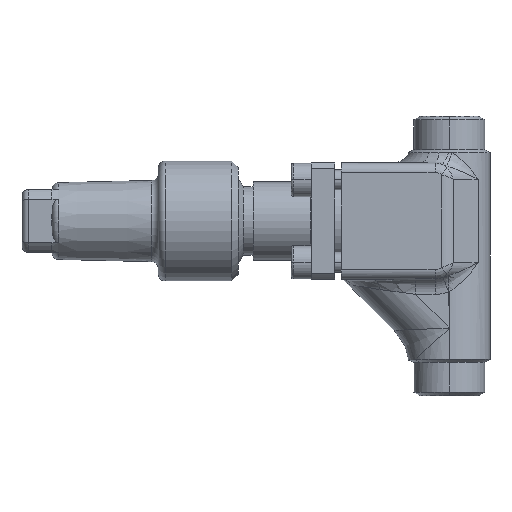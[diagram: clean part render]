
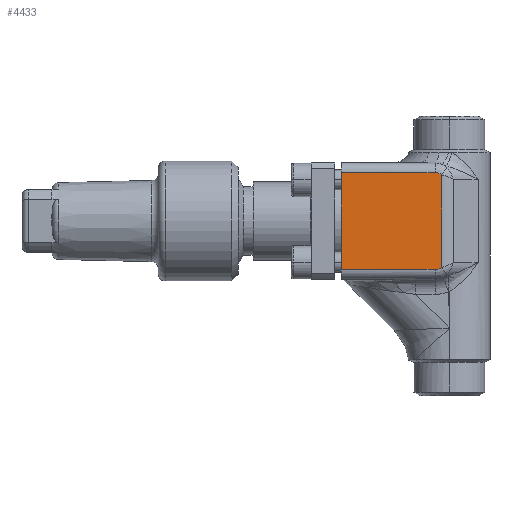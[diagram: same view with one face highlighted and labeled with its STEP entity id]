
A CAD part, left-side view. The second image highlights one B-rep face of the part: STEP entity #4433.
In plain terms, the highlighted planar face has unit normal (-1, 0, 0).
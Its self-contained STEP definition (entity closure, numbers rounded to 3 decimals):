
#16783 = ORIENTED_EDGE ( 'NONE', *, *, #18035, .T. ) ;
#821 = ORIENTED_EDGE ( 'NONE', *, *, #2505, .T. ) ;
#1056 = CARTESIAN_POINT ( 'NONE',  ( -17.5, 4.318, -32. ) ) ;
#17426 = CARTESIAN_POINT ( 'NONE',  ( -17.5, 2.318, -31.414 ) ) ;
#17578 = EDGE_CURVE ( 'NONE', #10593, #4859, #5756, .T. ) ;
#17665 = ORIENTED_EDGE ( 'NONE', *, *, #17578, .T. ) ;
#17817 = VERTEX_POINT ( 'NONE', #7082 ) ;
#1484 =( BOUNDED_CURVE ( )  B_SPLINE_CURVE ( 3, ( #1485, #1486, #1487, #1488 ),
 .UNSPECIFIED., .F., .F. ) 
 B_SPLINE_CURVE_WITH_KNOTS ( ( 4, 4 ),
 ( 0.785, 1.571 ),
 .UNSPECIFIED. ) 
 CURVE ( )  GEOMETRIC_REPRESENTATION_ITEM ( )  RATIONAL_B_SPLINE_CURVE ( ( 1., 0.949, 0.949, 1. ) ) 
 REPRESENTATION_ITEM ( '' )  );
#1485 = CARTESIAN_POINT ( 'NONE',  ( -17.5, 2.318, -3.586 ) ) ;
#1486 = CARTESIAN_POINT ( 'NONE',  ( -17.5, 2.855, -3.206 ) ) ;
#1487 = CARTESIAN_POINT ( 'NONE',  ( -17.5, 3.557, -3. ) ) ;
#1488 = CARTESIAN_POINT ( 'NONE',  ( -17.5, 4.318, -3. ) ) ;
#18035 = EDGE_CURVE ( 'NONE', #7613, #17817, #8583, .T. ) ;
#18090 = VERTEX_POINT ( 'NONE', #8628 ) ;
#18214 = EDGE_CURVE ( 'NONE', #18090, #11112, #8810, .T. ) ;
#2505 = EDGE_CURVE ( 'NONE', #4859, #7613, #1484, .T. ) ;
#4433 = ADVANCED_FACE ( 'NONE', ( #8836 ), #8837, .T. ) ;
#4475 = EDGE_CURVE ( 'NONE', #11112, #10593, #8891, .T. ) ;
#4859 = VERTEX_POINT ( 'NONE', #9313 ) ;
#5529 = ORIENTED_EDGE ( 'NONE', *, *, #18214, .T. ) ;
#5756 = LINE ( 'NONE', #5757, #5758 ) ;
#5757 = CARTESIAN_POINT ( 'NONE',  ( -17.5, 2.318, -35. ) ) ;
#5758 = VECTOR ( 'NONE', #5759, 1000. ) ;
#5759 = DIRECTION ( 'NONE',  ( 0., 0., 1. ) ) ;
#6193 = EDGE_LOOP ( 'NONE', ( #5529, #11042, #17665, #821, #16783, #8108 ) ) ;
#7082 = CARTESIAN_POINT ( 'NONE',  ( -17.5, 32.5, -3. ) ) ;
#7613 = VERTEX_POINT ( 'NONE', #14032 ) ;
#7936 = EDGE_CURVE ( 'NONE', #18090, #17817, #14205, .T. ) ;
#8108 = ORIENTED_EDGE ( 'NONE', *, *, #7936, .F. ) ;
#8583 = LINE ( 'NONE', #8584, #8586 ) ;
#8584 = CARTESIAN_POINT ( 'NONE',  ( -17.5, 32.5, -3. ) ) ;
#8586 = VECTOR ( 'NONE', #8587, 1000. ) ;
#8587 = DIRECTION ( 'NONE',  ( 0., 1., 0. ) ) ;
#8628 = CARTESIAN_POINT ( 'NONE',  ( -17.5, 32.5, -32. ) ) ;
#8810 = LINE ( 'NONE', #8811, #8812 ) ;
#8811 = CARTESIAN_POINT ( 'NONE',  ( -17.5, 0.247, -32. ) ) ;
#8812 = VECTOR ( 'NONE', #8813, 1000. ) ;
#8813 = DIRECTION ( 'NONE',  ( 0., -1., 0. ) ) ;
#8836 = FACE_OUTER_BOUND ( 'NONE', #6193, .T. ) ;
#8837 = PLANE ( 'NONE',  #8838 ) ;
#8838 = AXIS2_PLACEMENT_3D ( 'NONE', #8839, #8840, #8841 ) ;
#8839 = CARTESIAN_POINT ( 'NONE',  ( -17.5, 32.5, -35. ) ) ;
#8840 = DIRECTION ( 'NONE',  ( -1., 0., 0. ) ) ;
#8841 = DIRECTION ( 'NONE',  ( 0., -1., 0. ) ) ;
#8891 =( BOUNDED_CURVE ( )  B_SPLINE_CURVE ( 3, ( #8892, #8893, #8894, #8895 ),
 .UNSPECIFIED., .F., .T. ) 
 B_SPLINE_CURVE_WITH_KNOTS ( ( 4, 4 ),
 ( 1.571, 2.356 ),
 .UNSPECIFIED. ) 
 CURVE ( )  GEOMETRIC_REPRESENTATION_ITEM ( )  RATIONAL_B_SPLINE_CURVE ( ( 1., 0.949, 0.949, 1. ) ) 
 REPRESENTATION_ITEM ( '' )  );
#8892 = CARTESIAN_POINT ( 'NONE',  ( -17.5, 4.318, -32. ) ) ;
#8893 = CARTESIAN_POINT ( 'NONE',  ( -17.5, 3.557, -32. ) ) ;
#8894 = CARTESIAN_POINT ( 'NONE',  ( -17.5, 2.855, -31.794 ) ) ;
#8895 = CARTESIAN_POINT ( 'NONE',  ( -17.5, 2.318, -31.414 ) ) ;
#9313 = CARTESIAN_POINT ( 'NONE',  ( -17.5, 2.318, -3.586 ) ) ;
#10593 = VERTEX_POINT ( 'NONE', #17426 ) ;
#11042 = ORIENTED_EDGE ( 'NONE', *, *, #4475, .T. ) ;
#11112 = VERTEX_POINT ( 'NONE', #1056 ) ;
#14032 = CARTESIAN_POINT ( 'NONE',  ( -17.5, 4.318, -3. ) ) ;
#14205 = LINE ( 'NONE', #14206, #14207 ) ;
#14206 = CARTESIAN_POINT ( 'NONE',  ( -17.5, 32.5, -35. ) ) ;
#14207 = VECTOR ( 'NONE', #14208, 1000. ) ;
#14208 = DIRECTION ( 'NONE',  ( 0., 0., 1. ) ) ;
